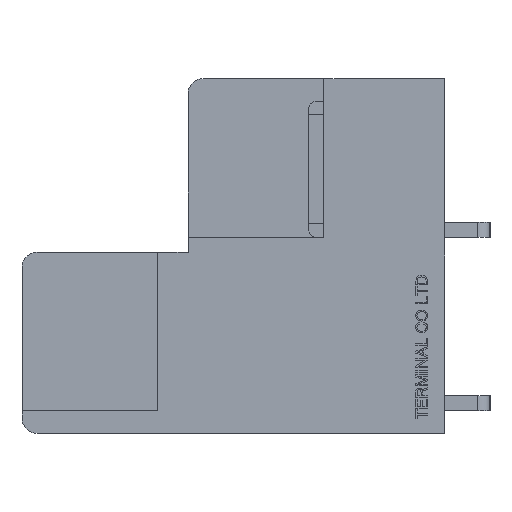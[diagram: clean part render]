
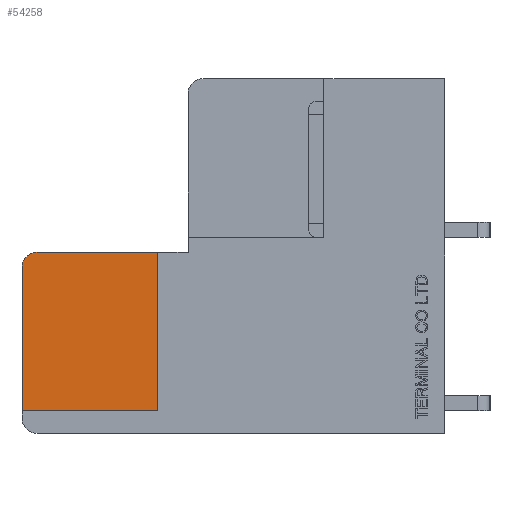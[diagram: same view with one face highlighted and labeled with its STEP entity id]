
A CAD part, left-side view. The second image highlights one B-rep face of the part: STEP entity #54258.
In plain terms, the highlighted planar face has unit normal (-1, 0, 0).
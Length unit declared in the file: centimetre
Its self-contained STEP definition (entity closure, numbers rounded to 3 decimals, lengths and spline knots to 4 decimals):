
#646=CIRCLE('',#92738,0.1);
#3134=VERTEX_POINT('',#71831);
#3135=VERTEX_POINT('',#71832);
#3138=VERTEX_POINT('',#71840);
#3140=VERTEX_POINT('',#71846);
#3141=VERTEX_POINT('',#71848);
#8825=VECTOR('',#60264,1.);
#8829=VECTOR('',#60269,1.);
#8832=VECTOR('',#60273,1.);
#8833=VECTOR('',#60276,1.);
#15262=LINE('',#71830,#8825);
#15266=LINE('',#71839,#8829);
#15269=LINE('',#71845,#8832);
#15270=LINE('',#71849,#8833);
#21797=EDGE_CURVE('',#3134,#3135,#15262,.T.);
#21801=EDGE_CURVE('',#3138,#3134,#15266,.T.);
#21804=EDGE_CURVE('',#3140,#3135,#15269,.T.);
#21805=EDGE_CURVE('',#3141,#3140,#646,.T.);
#21806=EDGE_CURVE('',#3138,#3141,#15270,.T.);
#30627=ORIENTED_EDGE('',*,*,#21801,.T.);
#30628=ORIENTED_EDGE('',*,*,#21797,.T.);
#30629=ORIENTED_EDGE('',*,*,#21804,.F.);
#30630=ORIENTED_EDGE('',*,*,#21805,.F.);
#30631=ORIENTED_EDGE('',*,*,#21806,.F.);
#47158=EDGE_LOOP('',(#30627,#30628,#30629,#30630,#30631));
#50710=FACE_BOUND('',#47158,.T.);
#54258=ADVANCED_FACE('',(#50710),#57487,.F.);
#57487=PLANE('',#92737);
#60264=DIRECTION('',(0.,0.,1.));
#60269=DIRECTION('',(0.,-1.,0.));
#60272=DIRECTION('',(1.,0.,0.));
#60273=DIRECTION('',(0.,-1.,0.));
#60274=DIRECTION('',(1.,0.,0.));
#60275=DIRECTION('',(0.,0.,-0.1));
#60276=DIRECTION('',(0.,0.,1.));
#71830=CARTESIAN_POINT('',(-2.86,-0.145,0.0375));
#71831=CARTESIAN_POINT('',(-2.86,-0.145,-0.45));
#71832=CARTESIAN_POINT('',(-2.86,-0.145,0.6));
#71839=CARTESIAN_POINT('',(-2.86,-0.1777,-0.45));
#71840=CARTESIAN_POINT('',(-2.86,0.755,-0.45));
#71844=CARTESIAN_POINT('',(-2.86,-0.6604,0.));
#71845=CARTESIAN_POINT('',(-2.86,0.655,0.6));
#71846=CARTESIAN_POINT('',(-2.86,0.655,0.6));
#71847=CARTESIAN_POINT('',(-2.86,0.655,0.5));
#71848=CARTESIAN_POINT('',(-2.86,0.755,0.5));
#71849=CARTESIAN_POINT('',(-2.86,0.755,-0.5));
#92737=AXIS2_PLACEMENT_3D('',#71844,#60272,$);
#92738=AXIS2_PLACEMENT_3D('',#71847,#60274,#60275);
